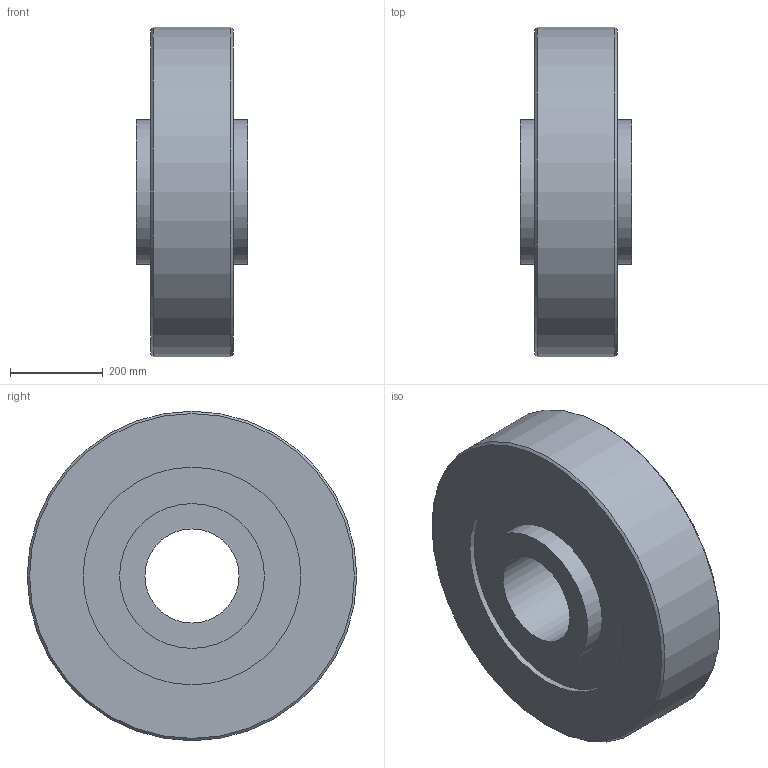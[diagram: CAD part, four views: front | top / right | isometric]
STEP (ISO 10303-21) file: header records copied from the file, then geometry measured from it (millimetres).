
FILE_DESCRIPTION((''),'1');
FILE_NAME('H:/図庫/国内ﾕﾆｯﾄ/ｶﾀﾛｸﾞ/ｸﾘｰﾌﾟﾌﾘｰ/ホームページ用ＣＡＤ図面/3D/update用', '2017-07-13T01:55:11',(''), (''), 'KCM Version 1.1.1442.0', 'Kubotek KeyCreator', '');
FILE_SCHEMA(('AUTOMOTIVE_DESIGN'));
Length unit declared in the file: inch
Bounding box: 241.3 x 711.2 x 711.2 mm (x, y, z)
Surface area: 1392343.1 mm2 (no closed solid volume)
Topology: 0 solids, 14 shells, 14 faces, 36 edges, 28 vertices
Faces by surface type: plane 6, cylinder 6, cone 2
Full cylindrical faces by diameter (mm): 203.2 x1, 312.42 x2, 469.9 x2, 711.2 x1
Entity records: 482 total; most frequent: DIRECTION 94, CARTESIAN_POINT 79, ORIENTED_EDGE 44, AXIS2_PLACEMENT_3D 43, EDGE_CURVE 36, VERTEX_POINT 28, CIRCLE 28, EDGE_LOOP 20
